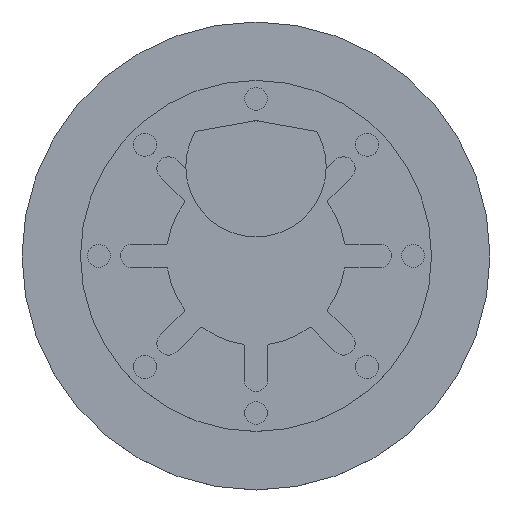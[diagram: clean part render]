
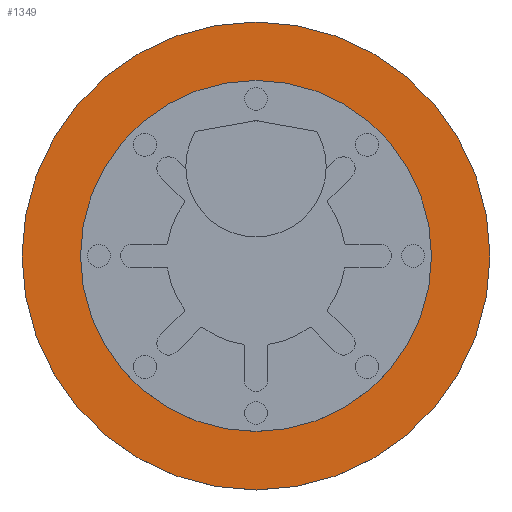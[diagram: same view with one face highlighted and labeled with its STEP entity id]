
A CAD part, top view. The second image highlights one B-rep face of the part: STEP entity #1349.
In plain terms, the highlighted planar face has unit normal (0, 0, 1).
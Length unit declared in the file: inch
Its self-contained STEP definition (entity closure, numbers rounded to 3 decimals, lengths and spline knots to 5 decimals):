
#138=CIRCLE('',#1557,4.);
#259=FACE_OUTER_BOUND('',#346,.T.);
#346=EDGE_LOOP('',(#1237));
#671=VERTEX_POINT('',#2407);
#860=EDGE_CURVE('',#671,#671,#138,.T.);
#1237=ORIENTED_EDGE('',*,*,#860,.T.);
#1271=PLANE('',#1558);
#1349=ADVANCED_FACE('',(#259),#1271,.T.);
#1557=AXIS2_PLACEMENT_3D('',#2409,#2001,#2002);
#1558=AXIS2_PLACEMENT_3D('',#2410,#2003,#2004);
#2001=DIRECTION('center_axis',(0.,0.,1.));
#2002=DIRECTION('ref_axis',(1.,0.,0.));
#2003=DIRECTION('center_axis',(0.,0.,1.));
#2004=DIRECTION('ref_axis',(1.,0.,0.));
#2407=CARTESIAN_POINT('',(-4.,0.,0.));
#2409=CARTESIAN_POINT('Origin',(0.,0.,0.));
#2410=CARTESIAN_POINT('Origin',(0.,0.,0.));
